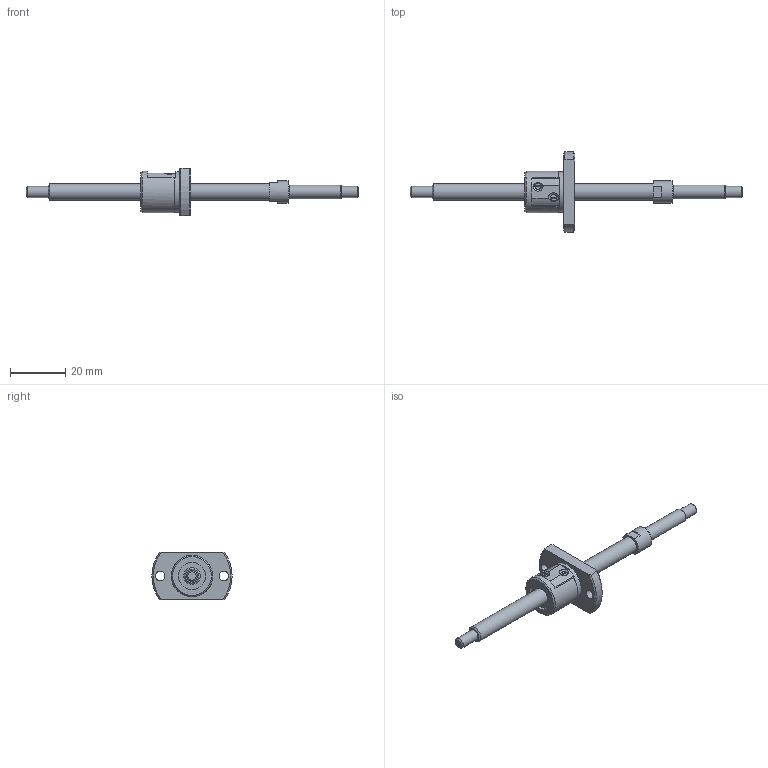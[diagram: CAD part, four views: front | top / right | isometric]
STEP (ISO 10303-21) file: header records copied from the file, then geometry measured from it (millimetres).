
FILE_DESCRIPTION(/* description */ ('STEP AP214'),/* implementation_level */ '2;1');
FILE_NAME(/* name */ 'SG0602.5-077R120C5C0X(33.5)',/* time_stamp */ '2026-07-20T20:17:26+02:00',/* author */ ('License CC BY-ND 4.0'),/* organization */ ('CADENAS'),/* preprocessor_version */ 'ST-DEVELOPER v20',/* originating_system */ 'PARTsolutions',/* authorisation */ ' ');
FILE_SCHEMA (('AUTOMOTIVE_DESIGN {1 0 10303 214 3 1 1}'));
Length unit declared in the file: millimetre
Products named in the file (3): SG0602.5-077R120C5C0X(33.5); SG0602.5-77R120C5C_shaft; SG0602.5 C5_nut
Assembly tree (2 placements, depth 2):
  SG0602.5-077R120C5C0X(33.5)
    SG0602.5-77R120C5C_shaft
    SG0602.5 C5_nut
Bounding box: 120 x 29 x 17 mm (x, y, z)
Volume: 6700.7 mm3; surface area: 4522 mm2
Topology: 2 solids, 2 shells, 74 faces, 179 edges, 118 vertices
Faces by surface type: plane 35, cylinder 24, cone 14, torus 1
Full cylindrical faces by diameter (mm): 3.4 x2, 4 x2, 5 x1, 6 x2, 8 x1, 10 x2, 14.6 x1, 15 x1
Entity records: 2087 total; most frequent: CARTESIAN_POINT 391, DIRECTION 352, ORIENTED_EDGE 292, AXIS2_PLACEMENT_3D 147, EDGE_CURVE 146, EDGE_LOOP 112, FACE_BOUND 112, VERTEX_POINT 108
